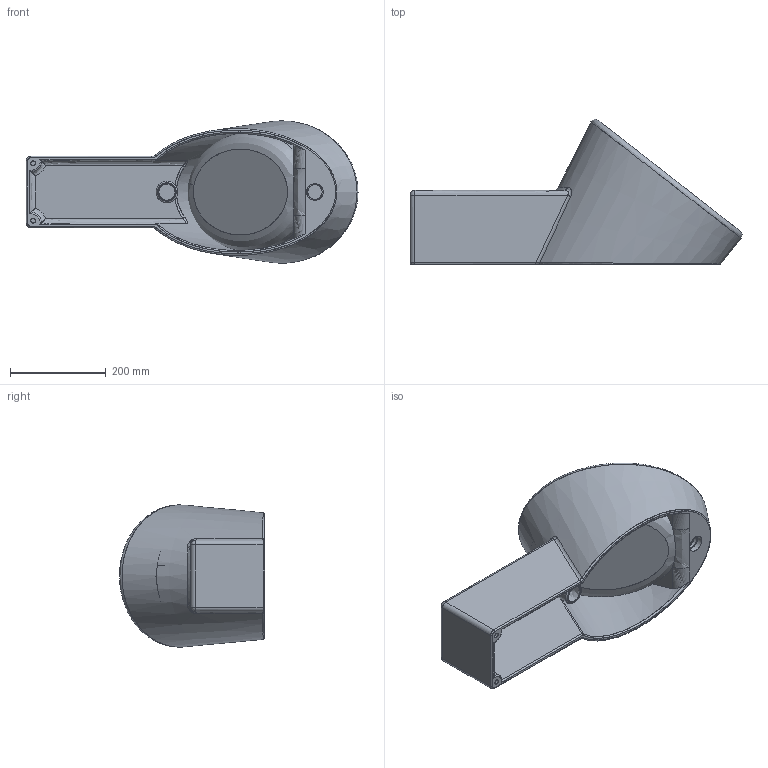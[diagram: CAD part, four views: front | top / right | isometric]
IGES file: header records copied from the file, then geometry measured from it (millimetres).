
Start section: C
Global section: file name: Orinatoio Fire Clay.igs; native system:  By UGS Corp.; preprocessor: XPlus GENERIC/IGES 3.0; author: Author; organization: Title; date: 20120321.143531; units: millimetre
Bounding box: 695.14 x 303.64 x 298.07 mm (x, y, z)
Surface area: 1030227.7 mm2 (no closed solid volume)
Topology: 0 solids, 0 shells, 92 faces, 446 edges, 443 vertices
Faces by surface type: bspline 92
